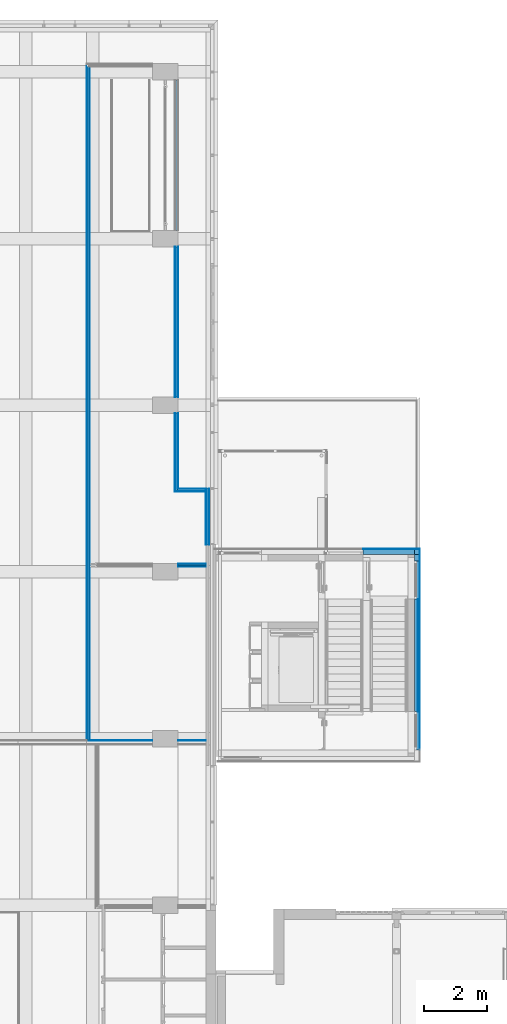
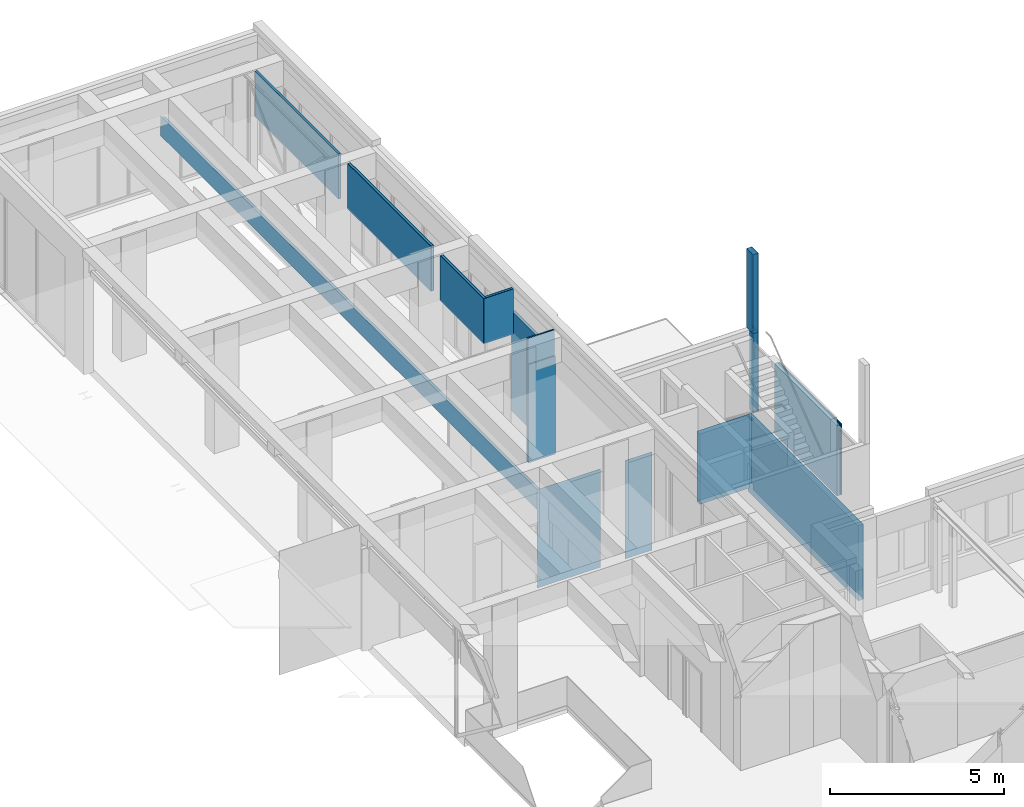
# One storey, part 89 of 117: 36 building element parts, 13 elements without a shape of their own.
"""IFC2X3 building model written with IfcOpenShell, lengths in millimetres."""

from ifc_helpers import new_model, entity, si_unit, converted_unit, derived_unit, money_unit, direction, frame, origin_with_axes, place, context, subcontext, project, spatial, faceted_brep, material, type_object, element, aggregate, save


model = new_model("IFC2X3")

# Units and contexts
model_context = context("Model", 3, precision=0.01, world=origin_with_axes(), true_north=direction((0.0, 1.0)))
body_context = subcontext(model_context, "Body", "Model", "MODEL_VIEW")
ifc_project = project(units=[si_unit("LENGTHUNIT", "METRE", prefix="MILLI"), si_unit("AREAUNIT", "SQUARE_METRE"), si_unit("VOLUMEUNIT", "CUBIC_METRE"), converted_unit("PLANEANGLEUNIT", "DEGREE", entity("IfcPlaneAngleMeasure", 0.0174532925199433), si_unit("PLANEANGLEUNIT", "RADIAN"), dimensions=[0, 0, 0, 0, 0, 0, 0]), money_unit("EUR"), converted_unit("TIMEUNIT", "Year", entity("IfcTimeMeasure", 31557600.0), si_unit("TIMEUNIT", "SECOND"), dimensions=[0, 0, 1, 0, 0, 0, 0]), si_unit("MASSUNIT", "GRAM", prefix="KILO"), si_unit("THERMODYNAMICTEMPERATUREUNIT", "DEGREE_CELSIUS"), si_unit("LUMINOUSINTENSITYUNIT", "LUMEN"), si_unit("ENERGYUNIT", "JOULE", prefix="MEGA"), derived_unit("THERMALCONDUCTANCEUNIT", [(si_unit("POWERUNIT", "WATT"), 1), (si_unit("LENGTHUNIT", "METRE"), -1), (si_unit("THERMODYNAMICTEMPERATUREUNIT", "KELVIN"), -1)]), derived_unit("SPECIFICHEATCAPACITYUNIT", [(si_unit("ENERGYUNIT", "JOULE"), 1), (si_unit("MASSUNIT", "GRAM", prefix="KILO"), -1), (si_unit("THERMODYNAMICTEMPERATUREUNIT", "KELVIN"), -1)]), derived_unit("MASSDENSITYUNIT", [(si_unit("MASSUNIT", "GRAM", prefix="KILO"), 1), (si_unit("VOLUMEUNIT", "CUBIC_METRE"), -1)])], contexts=[model_context])

# Site, building, storey
site_placement = place(None, origin_with_axes())
site = spatial("IfcSite", under=ifc_project, at=site_placement, Name="Site", CompositionType="ELEMENT")
building_placement = place(site_placement, origin_with_axes())
building = spatial("IfcBuilding", under=site, at=building_placement, Name="Naam gebouw", CompositionType="ELEMENT")
storey_placement = place(building_placement, frame((0.0, 0.0, 4150.0), z_axis=(0.0, 0.0, 1.0), x_axis=(1.0, 0.0, 0.0)))
storey = spatial("IfcBuildingStorey", under=building, at=storey_placement, Name="1e verdieping N", CompositionType="ELEMENT", Elevation=4150.0)

# Wall, building element parts
wall_type_1 = type_object("IfcWallType", Name="Basic Wall:41_WA_stucwerk op iso 170mm", PredefinedType="STANDARD")
wall_1_placement = place(storey_placement, frame((36666.50000001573, 39265.41242632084, 1769.999999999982), z_axis=(0.0, 0.0, 1.0), x_axis=(0.0, -1.0, 0.0)))
wall_1 = element("IfcWall", 1, at=wall_1_placement, inside=storey, type_object=wall_type_1, Name="Basic Wall:41_WA_stucwerk op iso 170mm")
ifc_material_1 = material(Name="Verflaag ral 7044  Zijdengrijs Isostuc")
building_element_part_1_placement = place(wall_1_placement, origin_with_axes())
building_element_part_1 = element("IfcBuildingElementPart", 2, at=building_element_part_1_placement, material=ifc_material_1, Name="Verflaag ral 7044  Zijdengrijs Isostuc", context=body_context, shape_type="Brep", body=[
    faceted_brep([(299.5000000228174, 85.50000001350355, 0.0), (-85.50001575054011, 85.50000001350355, 0.0), (-85.50001575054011, 85.50000001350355, 2770.000000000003), (299.5000000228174, 85.50000001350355, 2770.000000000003), (299.5000000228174, 84.50000001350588, 0.0), (-85.50001575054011, 84.50000001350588, 0.0), (-85.50001575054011, 84.50000001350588, 2770.000000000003), (299.5000000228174, 84.50000001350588, 2770.000000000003)], [[[0, 1, 2, 3]], [[4, 5, 1, 0]], [[5, 6, 2, 1]], [[3, 2, 6, 7]], [[7, 4, 0, 3]], [[7, 6, 5, 4]]]),
])
ifc_material_2 = material(Name="stucwerk - gevel gebouw V RAL 7044")
building_element_part_2_placement = place(wall_1_placement, origin_with_axes())
building_element_part_2 = element("IfcBuildingElementPart", 3, at=building_element_part_2_placement, material=ifc_material_2, Name="stucwerk - gevel gebouw V RAL 7044", context=body_context, shape_type="Brep", body=[
    faceted_brep([(299.5000000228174, 84.50000001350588, 0.0), (-84.49999995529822, 84.50000001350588, 0.0), (-84.49999995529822, 84.50000001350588, 2770.000000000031), (299.5000000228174, 84.50000001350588, 2770.000000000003), (299.5000000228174, 74.50000001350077, 0.0), (-84.49999995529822, 74.50000001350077, 0.0), (-84.49999995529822, 74.50000001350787, 2770.000000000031), (299.5000000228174, 74.50000001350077, 2770.000000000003)], [[[0, 1, 2, 3]], [[4, 5, 1, 0]], [[5, 6, 2, 1]], [[3, 2, 6, 7]], [[3, 7, 4, 0]], [[7, 6, 5, 4]]]),
])
ifc_material_3 = material(Name="isolatie_080_1-100")
building_element_part_3_placement = place(wall_1_placement, origin_with_axes())
building_element_part_3 = element("IfcBuildingElementPart", 4, at=building_element_part_3_placement, material=ifc_material_3, Name="isolatie_080_1-100", context=body_context, shape_type="Brep", body=[
    faceted_brep([(299.5000000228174, 74.50000001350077, 0.0), (-74.49999995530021, 74.50000001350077, 0.0), (-74.49999995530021, 74.50000001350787, 2770.000000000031), (299.5000000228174, 74.50000001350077, 2770.000000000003), (299.5000000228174, -85.49999998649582, 0.0), (-74.49999995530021, -85.49999998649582, 0.0), (-74.49999995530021, -85.49999998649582, 2770.000000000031), (299.5000000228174, -85.49999998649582, 2770.000000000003)], [[[0, 1, 2, 3]], [[4, 5, 1, 0]], [[5, 6, 2, 1]], [[3, 2, 6, 7]], [[3, 7, 4, 0]], [[7, 6, 5, 4]]]),
])
aggregate(wall_1, [building_element_part_1, building_element_part_2, building_element_part_3])

wall_2_placement = place(storey_placement, frame((34933.00000001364, 39265.41242632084, -3770.00000000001), z_axis=(0.0, 0.0, 1.0), x_axis=(1.0, 0.0, 0.0)))
wall_2 = element("IfcWall", 5, at=wall_2_placement, inside=storey, type_object=wall_type_1, Name="Basic Wall:41_WA_stucwerk op iso 170mm")
building_element_part_4_placement = place(wall_2_placement, origin_with_axes())
building_element_part_4 = element("IfcBuildingElementPart", 6, at=building_element_part_4_placement, material=ifc_material_3, Name="isolatie_080_1-100", context=body_context, shape_type="Brep", body=[
    faceted_brep([(1647.000000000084, -85.49999998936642, 0.0), (2.877698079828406e-09, -85.50000004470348, 0.0), (-2.501110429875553e-09, 74.4999999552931, 0.0), (1646.999999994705, 74.50000001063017, 0.0), (1647.000000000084, -85.49999998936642, 2470.000000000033), (2.877698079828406e-09, -85.50000004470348, 2470.000000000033), (-2.501110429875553e-09, 74.49999995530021, 2470.000000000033), (1646.999999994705, 74.50000001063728, 2470.000000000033)], [[[0, 1, 2, 3]], [[4, 5, 1, 0]], [[2, 1, 5, 6]], [[3, 2, 6, 7]], [[3, 7, 4, 0]], [[7, 6, 5, 4]]]),
])
building_element_part_5_placement = place(wall_2_placement, origin_with_axes())
building_element_part_5 = element("IfcBuildingElementPart", 7, at=building_element_part_5_placement, material=ifc_material_2, Name="stucwerk - gevel gebouw V RAL 7044", context=body_context, shape_type="Brep", body=[
    faceted_brep([(1806.999999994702, 74.50000001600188, 0.0), (-2.501110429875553e-09, 74.4999999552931, 0.0), (-2.8350655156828e-09, 84.49999995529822, 0.0), (1806.999999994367, 84.500000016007, 0.0), (1806.999999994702, 74.50000001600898, 2470.000000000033), (-2.501110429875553e-09, 74.49999995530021, 2470.000000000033), (-2.8350655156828e-09, 84.49999995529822, 2470.000000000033), (1806.999999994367, 84.500000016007, 2470.000000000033)], [[[0, 1, 2, 3]], [[4, 5, 1, 0]], [[2, 1, 5, 6]], [[3, 2, 6, 7]], [[3, 7, 4, 0]], [[7, 6, 5, 4]]]),
])
building_element_part_6_placement = place(wall_2_placement, origin_with_axes())
building_element_part_6 = element("IfcBuildingElementPart", 8, at=building_element_part_6_placement, material=ifc_material_1, Name="Verflaag ral 7044  Zijdengrijs Isostuc", context=body_context, shape_type="Brep", body=[
    faceted_brep([(1816.999999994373, 84.50000001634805, 0.0), (-2.8350655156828e-09, 84.49999995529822, 0.0), (-2.870592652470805e-09, 85.49999995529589, 0.0), (1816.999999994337, 85.50000001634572, 0.0), (1816.999999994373, 84.50000001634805, 2470.000000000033), (-2.8350655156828e-09, 84.49999995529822, 2470.000000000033), (-2.870592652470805e-09, 85.49999995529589, 2470.000000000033), (1816.999999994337, 85.50000001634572, 2470.000000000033)], [[[0, 1, 2, 3]], [[4, 5, 1, 0]], [[2, 1, 5, 6]], [[3, 2, 6, 7]], [[3, 7, 4, 0]], [[7, 6, 5, 4]]]),
])
aggregate(wall_2, [building_element_part_4, building_element_part_5, building_element_part_6])

# Wall, building element part
wall_type_2 = type_object("IfcWallType", Name="Metalstud iso 150 150", PredefinedType="NOTDEFINED")
wall_3_placement = place(storey_placement, frame((29906.0, 33235.9124251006, -99.99999999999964), z_axis=(0.0, 0.0, 1.0), x_axis=(-1.0, 0.0, 0.0)))
wall_3 = element("IfcWall", 9, at=wall_3_placement, inside=storey, type_object=wall_type_2, Name="_Wand-x")
ifc_material_4 = material(Name="Gipsplaat")
building_element_part_7_placement = place(wall_3_placement, origin_with_axes())
building_element_part_7 = element("IfcBuildingElementPart", 10, at=building_element_part_7_placement, material=ifc_material_4, Name="Gipsplaat", context=body_context, shape_type="Brep", body=[
    faceted_brep([(0.0, 0.0, 99.99999999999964), (890.0000000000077, 0.0, 99.99999999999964), (890.0000000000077, 0.0, 3549.999999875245), (0.0, 0.0, 3549.999999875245), (0.0, 12.50000000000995, 99.99999999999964), (890.0000000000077, 12.50000000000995, 99.99999999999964), (890.0000000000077, 12.50000000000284, 3549.999999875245), (0.0, 12.50000000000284, 3549.999999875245)], [[[0, 1, 2, 3]], [[4, 5, 1, 0]], [[5, 6, 2, 1]], [[3, 2, 6, 7]], [[4, 0, 3, 7]], [[7, 6, 5, 4]]]),
    faceted_brep([(1710.000000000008, 12.50000000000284, 3549.999999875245), (1710.000000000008, 0.0, 3549.999999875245), (3813.359287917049, 0.0, 3549.999999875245), (3813.359287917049, 12.50000000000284, 3549.999999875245), (1710.000000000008, 0.0, 99.99999999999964), (1710.000000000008, 12.50000000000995, 99.99999999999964), (3813.359287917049, 0.0, 99.99999999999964), (3813.359287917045, 0.0, 199.9999999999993), (3795.359287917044, 0.0, 199.9999999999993), (3795.359287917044, 0.0, 1110.0), (3813.359287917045, 0.0, 1110.0), (3813.359287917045, 12.50000000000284, 1110.0), (3795.359287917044, 12.50000000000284, 1110.0), (3795.359287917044, 12.50000000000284, 199.9999999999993), (3813.359287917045, 12.50000000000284, 199.9999999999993), (3813.359287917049, 12.50000000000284, 99.99999999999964)], [[[0, 1, 2, 3]], [[4, 1, 0, 5]], [[1, 4, 6, 7, 8, 9, 10, 2]], [[11, 3, 2, 10]], [[5, 0, 3, 11, 12, 13, 14, 15]], [[4, 5, 15, 6]], [[14, 7, 6, 15]], [[7, 14, 13, 8]], [[8, 13, 12, 9]], [[9, 12, 11, 10]]]),
])
aggregate(wall_3, [building_element_part_7])

# Wall, building element parts
wall_type_3 = type_object("IfcWallType", Name="Basic Wall:41_WA_houten delen vert trappenhuis", PredefinedType="STANDARD")
wall_4_placement = place(storey_placement, frame((36665.0000000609, 34145.91242629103, -1000.0), z_axis=(0.0, 0.0, 1.0), x_axis=(0.0, 1.0, 0.0)))
wall_4 = element("IfcWall", 11, at=wall_4_placement, inside=storey, type_object=wall_type_3, Name="Basic Wall:41_WA_houten delen vert trappenhuis")
ifc_material_5 = material(Name="isolatie")
building_element_part_8_placement = place(wall_4_placement, origin_with_axes())
building_element_part_8 = element("IfcBuildingElementPart", 12, at=building_element_part_8_placement, material=ifc_material_5, Name="isolatie", context=body_context, shape_type="Brep", body=[
    faceted_brep([(3599.999999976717, 83.9999999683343, 0.0), (3599.999999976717, -16.00000003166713, 0.0), (0.0, -16.00000003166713, 0.0), (0.0, 83.9999999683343, 0.0), (3599.999999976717, 83.9999999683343, 2470.0), (3599.999999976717, -16.00000003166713, 2470.0), (0.0, -16.00000003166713, 2470.0), (0.0, 83.9999999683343, 2470.0)], [[[0, 1, 2, 3]], [[0, 4, 5, 1]], [[1, 5, 6, 2]], [[3, 2, 6, 7]], [[4, 0, 3, 7]], [[5, 4, 7, 6]]]),
])
ifc_material_6 = material(Name="luchtspouw")
building_element_part_9_placement = place(wall_4_placement, origin_with_axes())
building_element_part_9 = element("IfcBuildingElementPart", 13, at=building_element_part_9_placement, material=ifc_material_6, Name="luchtspouw", context=body_context, shape_type="Brep", body=[
    faceted_brep([(3599.999999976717, -16.00000003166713, 0.0), (3599.999999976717, -44.00000003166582, 0.0), (0.0, -44.00000003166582, 0.0), (0.0, -16.00000003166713, 0.0), (3599.999999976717, -16.00000003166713, 2470.0), (3599.999999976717, -44.00000003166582, 2470.0), (0.0, -44.00000003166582, 2470.0), (0.0, -16.00000003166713, 2470.0)], [[[0, 1, 2, 3]], [[0, 4, 5, 1]], [[1, 5, 6, 2]], [[3, 2, 6, 7]], [[4, 0, 3, 7]], [[5, 4, 7, 6]]]),
])
building_element_part_10_placement = place(wall_4_placement, origin_with_axes())
building_element_part_10 = element("IfcBuildingElementPart", 14, at=building_element_part_10_placement, material=ifc_material_6, Name="luchtspouw", context=body_context, shape_type="Brep", body=[
    faceted_brep([(3599.999999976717, -44.00000003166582, 0.0), (3599.999999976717, -66.00000003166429, 0.0), (0.0, -66.00000003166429, 0.0), (0.0, -44.00000003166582, 0.0), (3599.999999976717, -44.00000003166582, 2470.0), (3599.999999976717, -66.00000003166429, 2470.0), (0.0, -66.00000003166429, 2470.0), (0.0, -44.00000003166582, 2470.0)], [[[0, 1, 2, 3]], [[0, 4, 5, 1]], [[1, 5, 6, 2]], [[3, 2, 6, 7]], [[4, 0, 3, 7]], [[5, 4, 7, 6]]]),
])
ifc_material_7 = material(Name="Houten delen vert")
building_element_part_11_placement = place(wall_4_placement, origin_with_axes())
building_element_part_11 = element("IfcBuildingElementPart", 15, at=building_element_part_11_placement, material=ifc_material_7, Name="Houten delen vert", context=body_context, shape_type="Brep", body=[
    faceted_brep([(3599.999999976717, -66.00000003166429, 0.0), (3599.999999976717, -84.00000003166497, 0.0), (0.0, -84.00000003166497, 0.0), (0.0, -66.00000003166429, 0.0), (3599.999999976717, -66.00000003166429, 2470.0), (3599.999999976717, -84.00000003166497, 2470.0), (0.0, -84.00000003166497, 2470.0), (0.0, -66.00000003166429, 2470.0)], [[[0, 1, 2, 3]], [[0, 4, 5, 1]], [[1, 5, 6, 2]], [[3, 2, 6, 7]], [[4, 0, 3, 7]], [[5, 4, 7, 6]]]),
])
aggregate(wall_4, [building_element_part_8, building_element_part_9, building_element_part_10, building_element_part_11])

wall_5_placement = place(storey_placement, frame((36666.50000001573, 39265.41242632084, -1000.0), z_axis=(0.0, 0.0, 1.0), x_axis=(0.0, -1.0, 0.0)))
wall_5 = element("IfcWall", 16, at=wall_5_placement, inside=storey, type_object=wall_type_1, Name="Basic Wall:41_WA_stucwerk op iso 170mm")
building_element_part_12_placement = place(wall_5_placement, origin_with_axes())
building_element_part_12 = element("IfcBuildingElementPart", 17, at=building_element_part_12_placement, material=ifc_material_1, Name="Verflaag ral 7044  Zijdengrijs Isostuc", context=body_context, shape_type="Brep", body=[
    faceted_brep([(299.5000000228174, 85.50000001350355, 0.0), (-84.49999995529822, 85.50000001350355, 0.0), (-84.49999995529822, 85.50000001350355, 2770.000000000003), (299.5000000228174, 85.50000001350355, 2770.000000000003), (299.5000000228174, 84.50000001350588, 0.0), (-84.49999995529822, 84.50000001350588, 0.0), (-84.49999995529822, 84.50000001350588, 2770.000000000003), (299.5000000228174, 84.50000001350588, 2770.000000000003)], [[[0, 1, 2, 3]], [[4, 5, 1, 0]], [[5, 6, 2, 1]], [[3, 2, 6, 7]], [[3, 7, 4, 0]], [[7, 6, 5, 4]]]),
])
building_element_part_13_placement = place(wall_5_placement, origin_with_axes())
building_element_part_13 = element("IfcBuildingElementPart", 18, at=building_element_part_13_placement, material=ifc_material_2, Name="stucwerk - gevel gebouw V RAL 7044", context=body_context, shape_type="Brep", body=[
    faceted_brep([(299.5000000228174, 84.50000001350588, 0.0), (-74.49999995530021, 84.50000001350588, 0.0), (-74.49999995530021, 84.50000001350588, 2770.000000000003), (299.5000000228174, 84.50000001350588, 2770.000000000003), (299.5000000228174, 74.50000001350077, 0.0), (-74.49999995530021, 74.50000001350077, 0.0), (-74.49999995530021, 74.50000001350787, 2770.000000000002), (299.5000000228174, 74.50000001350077, 2770.000000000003)], [[[0, 1, 2, 3]], [[4, 5, 1, 0]], [[5, 6, 2, 1]], [[3, 2, 6, 7]], [[3, 7, 4, 0]], [[7, 6, 5, 4]]]),
])
building_element_part_14_placement = place(wall_5_placement, origin_with_axes())
building_element_part_14 = element("IfcBuildingElementPart", 19, at=building_element_part_14_placement, material=ifc_material_3, Name="isolatie_080_1-100", context=body_context, shape_type="Brep", body=[
    faceted_brep([(299.5000000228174, 74.50000001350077, 0.0), (85.50000004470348, 74.50000001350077, 0.0), (85.50000004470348, 74.50000001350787, 2770.000000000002), (299.5000000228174, 74.50000001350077, 2770.000000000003), (299.5000000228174, -85.49999998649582, 0.0), (85.50000004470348, -85.49999998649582, 0.0), (85.50000004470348, -85.49999998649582, 2769.999999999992), (299.5000000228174, -85.49999998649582, 2770.000000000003)], [[[0, 1, 2, 3]], [[4, 5, 1, 0]], [[5, 6, 2, 1]], [[3, 2, 6, 7]], [[3, 7, 4, 0]], [[7, 6, 5, 4]]]),
])
aggregate(wall_5, [building_element_part_12, building_element_part_13, building_element_part_14])

wall_type_4 = type_object("IfcWallType", Name="Metalstud iso 100 100", PredefinedType="NOTDEFINED")
wall_6_placement = place(storey_placement, frame((30006.0, 41280.91242510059, 0.0), z_axis=(0.0, 0.0, 1.0), x_axis=(0.0, -1.0, 0.0)))
wall_6 = element("IfcWall", 20, at=wall_6_placement, inside=storey, type_object=wall_type_4, Name="_Wand-x")
building_element_part_15_placement = place(wall_6_placement, origin_with_axes())
building_element_part_15 = element("IfcBuildingElementPart", 21, at=building_element_part_15_placement, material=ifc_material_4, Name="Gipsplaat", context=body_context, shape_type="Brep", body=[
    faceted_brep([(1794.999999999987, 0.0, 0.0), (1794.999999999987, -12.49999999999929, 0.0), (0.0, -12.49999999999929, 0.0), (0.0, 0.0, 0.0), (1794.999999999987, 0.0, 3499.999999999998), (1794.999999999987, -12.49999999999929, 3499.999999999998), (0.0, -12.49999999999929, 3499.999999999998), (0.0, 0.0, 3499.999999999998)], [[[0, 1, 2, 3]], [[0, 4, 5, 1]], [[1, 5, 6, 2]], [[3, 2, 6, 7]], [[4, 0, 3, 7]], [[5, 4, 7, 6]]]),
])
building_element_part_16_placement = place(wall_6_placement, origin_with_axes())
building_element_part_16 = element("IfcBuildingElementPart", 22, at=building_element_part_16_placement, material=ifc_material_4, Name="Gipsplaat", context=body_context, shape_type="Brep", body=[
    faceted_brep([(1794.999999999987, -87.49999999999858, 0.0), (1794.999999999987, -100.0000000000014, 0.0), (0.0, -100.0000000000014, 0.0), (0.0, -87.49999999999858, 0.0), (1794.999999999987, -87.49999999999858, 3499.999999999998), (1794.999999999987, -100.0000000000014, 3499.999999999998), (0.0, -100.0000000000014, 3499.999999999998), (0.0, -87.49999999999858, 3499.999999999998)], [[[0, 1, 2, 3]], [[0, 4, 5, 1]], [[1, 5, 6, 2]], [[3, 2, 6, 7]], [[4, 0, 3, 7]], [[5, 4, 7, 6]]]),
])
ifc_material_8 = material(Name="Isolatie - Steenwol LSW")
building_element_part_17_placement = place(wall_6_placement, origin_with_axes())
building_element_part_17 = element("IfcBuildingElementPart", 23, at=building_element_part_17_placement, material=ifc_material_8, Name="Isolatie - Steenwol LSW", context=body_context, shape_type="Brep", body=[
    faceted_brep([(1794.999999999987, -12.49999999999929, 0.0), (1794.999999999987, -87.49999999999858, 0.0), (0.0, -87.49999999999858, 0.0), (0.0, -12.49999999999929, 0.0), (1794.999999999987, -12.49999999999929, 3499.999999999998), (1794.999999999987, -87.49999999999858, 3499.999999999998), (0.0, -87.49999999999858, 3499.999999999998), (0.0, -12.49999999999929, 3499.999999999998)], [[[0, 1, 2, 3]], [[0, 4, 5, 1]], [[1, 5, 6, 2]], [[3, 2, 6, 7]], [[4, 0, 3, 7]], [[5, 4, 7, 6]]]),
])
aggregate(wall_6, [building_element_part_15, building_element_part_16, building_element_part_17])

wall_7_placement = place(storey_placement, frame((29015.99999999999, 41280.91242510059, 2760.0), z_axis=(0.0, 0.0, 1.0), x_axis=(0.0, 1.0, 0.0)))
wall_7 = element("IfcWall", 24, at=wall_7_placement, inside=storey, type_object=wall_type_4, Name="_Wand-x")
building_element_part_18_placement = place(wall_7_placement, origin_with_axes())
building_element_part_18 = element("IfcBuildingElementPart", 25, at=building_element_part_18_placement, material=ifc_material_4, Name="Gipsplaat", context=body_context, shape_type="Brep", body=[
    faceted_brep([(-100.0000000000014, 87.49999999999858, 1580.0), (2402.500000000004, 87.49999999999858, 1580.0), (2402.500000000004, 100.0000000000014, 1580.0), (-100.0000000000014, 100.0000000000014, 1580.0), (-100.0000000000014, 87.49999999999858, 0.0), (2402.500000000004, 87.49999999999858, 0.0), (2402.500000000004, 100.0000000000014, 0.0), (-100.0000000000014, 100.0000000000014, 0.0)], [[[0, 1, 2, 3]], [[4, 5, 1, 0]], [[2, 1, 5, 6]], [[3, 2, 6, 7]], [[4, 0, 3, 7]], [[7, 6, 5, 4]]]),
])
building_element_part_19_placement = place(wall_7_placement, origin_with_axes())
building_element_part_19 = element("IfcBuildingElementPart", 26, at=building_element_part_19_placement, material=ifc_material_8, Name="Isolatie - Steenwol LSW", context=body_context, shape_type="Brep", body=[
    faceted_brep([(-87.49999999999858, 12.49999999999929, 1580.0), (2402.500000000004, 12.49999999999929, 1580.0), (2402.500000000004, 87.49999999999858, 1580.0), (-87.49999999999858, 87.49999999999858, 1580.0), (-87.49999999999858, 12.49999999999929, 0.0), (2402.500000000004, 12.49999999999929, 0.0), (2402.500000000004, 87.49999999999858, 0.0), (-87.49999999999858, 87.49999999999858, 0.0)], [[[0, 1, 2, 3]], [[4, 5, 1, 0]], [[2, 1, 5, 6]], [[3, 2, 6, 7]], [[4, 0, 3, 7]], [[7, 6, 5, 4]]]),
])
building_element_part_20_placement = place(wall_7_placement, origin_with_axes())
building_element_part_20 = element("IfcBuildingElementPart", 27, at=building_element_part_20_placement, material=ifc_material_4, Name="Gipsplaat", context=body_context, shape_type="Brep", body=[
    faceted_brep([(-12.50000000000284, 0.0, 1580.0), (2402.500000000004, 0.0, 1580.0), (2402.500000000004, 12.49999999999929, 1580.0), (-12.50000000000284, 12.49999999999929, 1580.0), (-12.50000000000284, 0.0, 0.0), (2402.500000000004, 0.0, 0.0), (2402.500000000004, 12.49999999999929, 0.0), (-12.50000000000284, 12.49999999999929, 0.0)], [[[0, 1, 2, 3]], [[4, 5, 1, 0]], [[2, 1, 5, 6]], [[3, 2, 6, 7]], [[4, 0, 3, 7]], [[7, 6, 5, 4]]]),
])
aggregate(wall_7, [building_element_part_18, building_element_part_19, building_element_part_20])

wall_8_placement = place(storey_placement, frame((36665.50000005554, 39265.41242626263, -3939.999999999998), z_axis=(0.0, 0.0, 1.0), x_axis=(0.0, -1.0, 0.0)))
wall_8 = element("IfcWall", 28, at=wall_8_placement, inside=storey, type_object=wall_type_1, Name="Basic Wall:41_WA_stucwerk op iso 170mm")
building_element_part_21_placement = place(wall_8_placement, origin_with_axes())
building_element_part_21 = element("IfcBuildingElementPart", 29, at=building_element_part_21_placement, material=ifc_material_1, Name="Verflaag ral 7044  Zijdengrijs Isostuc", context=body_context, shape_type="Brep", body=[
    faceted_brep([(-85.50000567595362, 85.49999995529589, 169.9999999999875), (-85.50000567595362, 85.49999995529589, 2640.00000000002), (6339.499999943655, 85.49999995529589, 2640.000000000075), (6339.499999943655, 85.49999995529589, 0.0), (0.0, 85.49999995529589, 0.0), (0.0, 85.49999995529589, 170.0000003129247), (-85.50000567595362, 84.49999995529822, 2640.00000000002), (-85.50000567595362, 84.49999995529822, 169.9999999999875), (6339.499999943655, 84.49999995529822, 2640.000000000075), (6339.499999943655, 84.49999995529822, 0.0), (0.0, 84.49999995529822, 0.0), (0.0, 84.49999995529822, 170.0000003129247)], [[[0, 1, 2, 3, 4, 5]], [[6, 1, 0, 7]], [[1, 6, 8, 2]], [[9, 3, 2, 8]], [[10, 4, 3, 9]], [[5, 4, 10, 11]], [[7, 0, 5, 11]], [[6, 7, 11, 10, 9, 8]]]),
])
building_element_part_22_placement = place(wall_8_placement, origin_with_axes())
building_element_part_22 = element("IfcBuildingElementPart", 30, at=building_element_part_22_placement, material=ifc_material_2, Name="stucwerk - gevel gebouw V RAL 7044", context=body_context, shape_type="Brep", body=[
    faceted_brep([(-84.50000001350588, 84.49999995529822, 169.9999999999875), (-84.50000001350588, 84.49999995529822, 2640.00000000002), (6339.499999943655, 84.49999995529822, 2640.000000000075), (6339.499999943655, 84.49999995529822, 0.0), (0.0, 84.49999995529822, 0.0), (0.0, 84.49999995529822, 170.0000003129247), (-84.50000001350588, 74.49999995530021, 2640.00000000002), (-84.50000001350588, 74.4999999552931, 169.9999999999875), (6339.499999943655, 74.4999999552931, 2640.000000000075), (6339.499999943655, 74.4999999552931, 0.0), (0.0, 74.4999999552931, 0.0), (0.0, 74.4999999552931, 170.0000003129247)], [[[0, 1, 2, 3, 4, 5]], [[6, 1, 0, 7]], [[1, 6, 8, 2]], [[8, 9, 3, 2]], [[9, 10, 4, 3]], [[11, 5, 4, 10]], [[7, 0, 5, 11]], [[6, 7, 11, 10, 9, 8]]]),
])
building_element_part_23_placement = place(wall_8_placement, origin_with_axes())
building_element_part_23 = element("IfcBuildingElementPart", 31, at=building_element_part_23_placement, material=ifc_material_3, Name="isolatie_080_1-100", context=body_context, shape_type="Brep", body=[
    faceted_brep([(-74.50000001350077, 74.4999999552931, 169.9999999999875), (-74.50000001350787, 74.49999995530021, 2640.00000000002), (6339.499999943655, 74.4999999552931, 2640.000000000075), (6339.499999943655, 74.4999999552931, 0.0), (0.0, 74.4999999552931, 0.0), (0.0, 74.4999999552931, 170.0000003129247), (-74.50000001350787, -85.50000004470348, 2640.00000000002), (-74.50000001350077, -85.50000004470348, 169.9999999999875), (6339.499999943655, -85.50000004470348, 2640.000000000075), (6339.499999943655, -85.50000004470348, 0.0), (0.0, -85.50000004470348, 0.0), (0.0, -85.50000004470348, 170.0000003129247)], [[[0, 1, 2, 3, 4, 5]], [[6, 1, 0, 7]], [[1, 6, 8, 2]], [[8, 9, 3, 2]], [[9, 10, 4, 3]], [[11, 5, 4, 10]], [[7, 0, 5, 11]], [[6, 7, 11, 10, 9, 8]]]),
])
aggregate(wall_8, [building_element_part_21, building_element_part_22, building_element_part_23])

wall_9_placement = place(storey_placement, frame((29015.99999999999, 44208.41242510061, 2760.0), z_axis=(0.0, 0.0, 1.0), x_axis=(0.0, 1.0, 0.0)))
wall_9 = element("IfcWall", 32, at=wall_9_placement, inside=storey, type_object=wall_type_4, Name="_Wand-x")
building_element_part_24_placement = place(wall_9_placement, origin_with_axes())
building_element_part_24 = element("IfcBuildingElementPart", 33, at=building_element_part_24_placement, material=ifc_material_4, Name="Gipsplaat", context=body_context, shape_type="Brep", body=[
    faceted_brep([(0.0, 87.49999999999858, 1580.0), (4804.999999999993, 87.49999999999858, 1580.0), (4804.999999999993, 100.0000000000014, 1580.0), (0.0, 100.0000000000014, 1580.0), (0.0, 87.49999999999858, 0.0), (4804.999999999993, 87.49999999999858, 0.0), (4804.999999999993, 100.0000000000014, 0.0), (0.0, 100.0000000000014, 0.0)], [[[0, 1, 2, 3]], [[4, 5, 1, 0]], [[2, 1, 5, 6]], [[3, 2, 6, 7]], [[4, 0, 3, 7]], [[7, 6, 5, 4]]]),
])
building_element_part_25_placement = place(wall_9_placement, origin_with_axes())
building_element_part_25 = element("IfcBuildingElementPart", 34, at=building_element_part_25_placement, material=ifc_material_8, Name="Isolatie - Steenwol LSW", context=body_context, shape_type="Brep", body=[
    faceted_brep([(0.0, 12.49999999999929, 1580.0), (4804.999999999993, 12.49999999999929, 1580.0), (4804.999999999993, 87.49999999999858, 1580.0), (0.0, 87.49999999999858, 1580.0), (0.0, 12.49999999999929, 0.0), (4804.999999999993, 12.49999999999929, 0.0), (4804.999999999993, 87.49999999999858, 0.0), (0.0, 87.49999999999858, 0.0)], [[[0, 1, 2, 3]], [[4, 5, 1, 0]], [[2, 1, 5, 6]], [[3, 2, 6, 7]], [[4, 0, 3, 7]], [[7, 6, 5, 4]]]),
])
building_element_part_26_placement = place(wall_9_placement, origin_with_axes())
building_element_part_26 = element("IfcBuildingElementPart", 35, at=building_element_part_26_placement, material=ifc_material_4, Name="Gipsplaat", context=body_context, shape_type="Brep", body=[
    faceted_brep([(0.0, 0.0, 1580.0), (4804.999999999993, 0.0, 1580.0), (4804.999999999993, 12.49999999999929, 1580.0), (0.0, 12.49999999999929, 1580.0), (0.0, 0.0, 0.0), (4804.999999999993, 0.0, 0.0), (4804.999999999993, 12.49999999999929, 0.0), (0.0, 12.49999999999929, 0.0)], [[[0, 1, 2, 3]], [[4, 5, 1, 0]], [[2, 1, 5, 6]], [[3, 2, 6, 7]], [[4, 0, 3, 7]], [[7, 6, 5, 4]]]),
])
aggregate(wall_9, [building_element_part_24, building_element_part_25, building_element_part_26])

wall_10_placement = place(storey_placement, frame((26091.99996408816, 54868.4124251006, 2760.0), z_axis=(0.0, 0.0, 1.0), x_axis=(0.0, -1.0, 0.0)))
wall_10 = element("IfcWall", 36, at=wall_10_placement, inside=storey, type_object=wall_type_4, Name="_Wand-x")
building_element_part_27_placement = place(wall_10_placement, origin_with_axes())
building_element_part_27 = element("IfcBuildingElementPart", 37, at=building_element_part_27_placement, material=ifc_material_4, Name="Gipsplaat", context=body_context, shape_type="Brep", body=[
    faceted_brep([(21632.5, 99.99999999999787, 690.0000000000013), (100.0000000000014, 100.0000000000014, 690.0000000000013), (100.0000000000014, 87.49999999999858, 690.0000000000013), (21632.5, 87.49999999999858, 690.0000000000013), (21632.5, 99.99999999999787, 0.0), (100.0000000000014, 100.0000000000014, 0.0), (100.0000000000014, 87.49999999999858, 0.0), (21632.5, 87.49999999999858, 0.0)], [[[0, 1, 2, 3]], [[4, 5, 1, 0]], [[2, 1, 5, 6]], [[3, 2, 6, 7]], [[3, 7, 4, 0]], [[7, 6, 5, 4]]]),
])
building_element_part_28_placement = place(wall_10_placement, origin_with_axes())
building_element_part_28 = element("IfcBuildingElementPart", 38, at=building_element_part_28_placement, material=ifc_material_8, Name="Isolatie - Steenwol LSW", context=body_context, shape_type="Brep", body=[
    faceted_brep([(21632.5, 87.49999999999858, 690.0000000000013), (87.49999999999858, 87.49999999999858, 690.0000000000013), (87.49999999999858, 12.49999999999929, 690.0000000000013), (21632.5, 12.49999999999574, 690.0000000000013), (21632.5, 87.49999999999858, 0.0), (87.49999999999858, 87.49999999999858, 0.0), (87.49999999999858, 12.49999999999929, 0.0), (21632.5, 12.49999999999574, 0.0)], [[[0, 1, 2, 3]], [[4, 5, 1, 0]], [[2, 1, 5, 6]], [[3, 2, 6, 7]], [[3, 7, 4, 0]], [[7, 6, 5, 4]]]),
])
building_element_part_29_placement = place(wall_10_placement, origin_with_axes())
building_element_part_29 = element("IfcBuildingElementPart", 39, at=building_element_part_29_placement, material=ifc_material_4, Name="Gipsplaat", context=body_context, shape_type="Brep", body=[
    faceted_brep([(21632.5, 12.49999999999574, 690.0000000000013), (12.50000000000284, 12.49999999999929, 690.0000000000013), (12.50000000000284, 0.0, 690.0000000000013), (21632.5, 0.0, 690.0000000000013), (21632.5, 12.49999999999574, 0.0), (12.50000000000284, 12.49999999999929, 0.0), (12.50000000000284, 0.0, 0.0), (21632.5, 0.0, 0.0)], [[[0, 1, 2, 3]], [[4, 5, 1, 0]], [[2, 1, 5, 6]], [[3, 2, 6, 7]], [[3, 7, 4, 0]], [[7, 6, 5, 4]]]),
])
aggregate(wall_10, [building_element_part_27, building_element_part_28, building_element_part_29])

wall_11_placement = place(storey_placement, frame((29015.99999999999, 38778.41242510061, 0.0), z_axis=(0.0, 0.0, 1.0), x_axis=(1.0, 0.0, 0.0)))
wall_11 = element("IfcWall", 40, at=wall_11_placement, inside=storey, type_object=wall_type_4, Name="_Wand-x")
building_element_part_30_placement = place(wall_11_placement, origin_with_axes())
building_element_part_30 = element("IfcBuildingElementPart", 41, at=building_element_part_30_placement, material=ifc_material_8, Name="Isolatie - Steenwol LSW", context=body_context, shape_type="Brep", body=[
    faceted_brep([(890.0000000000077, 87.49999999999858, 4340.0), (0.0, 87.49999999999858, 4340.0), (0.0, 37.50000000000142, 4340.0), (890.0000000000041, 37.50000000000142, 4340.0), (0.0, 87.49999999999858, 0.0), (890.0000000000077, 87.49999999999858, 0.0), (0.0, 12.50000000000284, 0.0), (0.0, 12.50000000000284, 3450.0), (0.0, 37.50000000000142, 3450.0), (890.0000000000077, 37.50000000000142, 3450.0), (890.0000000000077, 12.50000000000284, 3450.0), (890.0000000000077, 12.50000000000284, 0.0)], [[[0, 1, 2, 3]], [[4, 1, 0, 5]], [[6, 7, 8, 2, 1, 4]], [[8, 9, 3, 2]], [[0, 3, 9, 10, 11, 5]], [[6, 4, 5, 11]], [[6, 11, 10, 7]], [[8, 7, 10, 9]]]),
])
building_element_part_31_placement = place(wall_11_placement, origin_with_axes())
building_element_part_31 = element("IfcBuildingElementPart", 42, at=building_element_part_31_placement, material=ifc_material_4, Name="Gipsplaat", context=body_context, shape_type="Brep", body=[
    faceted_brep([(0.0, 100.0000000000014, 4340.0), (0.0, 87.49999999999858, 4340.0), (890.0000000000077, 87.49999999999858, 4340.0), (890.0000000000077, 100.0000000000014, 4340.0), (0.0, 100.0000000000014, 0.0), (0.0, 87.49999999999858, 0.0), (890.0000000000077, 87.49999999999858, 0.0), (890.0000000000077, 100.0000000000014, 0.0)], [[[0, 1, 2, 3]], [[0, 4, 5, 1]], [[1, 5, 6, 2]], [[6, 7, 3, 2]], [[4, 0, 3, 7]], [[5, 4, 7, 6]]]),
])
building_element_part_32_placement = place(wall_11_placement, origin_with_axes())
building_element_part_32 = element("IfcBuildingElementPart", 43, at=building_element_part_32_placement, material=ifc_material_4, Name="Gipsplaat", context=body_context, shape_type="Brep", body=[
    faceted_brep([(890.0000000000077, 12.50000000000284, 0.0), (0.0, 12.50000000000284, 0.0), (0.0, 12.50000000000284, 3450.0), (890.0000000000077, 12.50000000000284, 3450.0), (0.0, 0.0, 0.0), (890.0000000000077, 0.0, 0.0), (0.0, 0.0, 3450.0), (890.0000000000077, 0.0, 3450.0)], [[[0, 1, 2, 3]], [[4, 1, 0, 5]], [[1, 4, 6, 2]], [[2, 6, 7, 3]], [[5, 0, 3, 7]], [[4, 5, 7, 6]]]),
])
aggregate(wall_11, [building_element_part_30, building_element_part_31, building_element_part_32])

# Wall, building element part
wall_12_placement = place(storey_placement, frame((29015.99999999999, 49538.4124251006, 2760.0), z_axis=(0.0, 0.0, 1.0), x_axis=(0.0, 1.0, 0.0)))
wall_12 = element("IfcWall", 44, at=wall_12_placement, inside=storey, type_object=wall_type_4, Name="_Wand-x")
building_element_part_33_placement = place(wall_12_placement, origin_with_axes())
building_element_part_33 = element("IfcBuildingElementPart", 45, at=building_element_part_33_placement, material=ifc_material_8, Name="Isolatie - Steenwol LSW", context=body_context, shape_type="Brep", body=[
    faceted_brep([(0.0, 12.49999999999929, 1580.0), (4804.999999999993, 12.49999999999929, 1580.0), (4804.999999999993, 87.49999999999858, 1580.0), (0.0, 87.49999999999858, 1580.0), (0.0, 12.49999999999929, 0.0), (4804.999999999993, 12.49999999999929, 0.0), (4804.999999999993, 87.49999999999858, 0.0), (0.0, 87.49999999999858, 0.0)], [[[0, 1, 2, 3]], [[4, 5, 1, 0]], [[2, 1, 5, 6]], [[3, 2, 6, 7]], [[4, 0, 3, 7]], [[7, 6, 5, 4]]]),
])
aggregate(wall_12, [building_element_part_33])

# Wall, building element parts
wall_13_placement = place(storey_placement, frame((29945.0, 41280.91242510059, 2760.0), z_axis=(0.0, 0.0, 1.0), x_axis=(-1.0, 0.0, 0.0)))
wall_13 = element("IfcWall", 46, at=wall_13_placement, inside=storey, type_object=wall_type_4, Name="_Wand-x")
building_element_part_34_placement = place(wall_13_placement, origin_with_axes())
building_element_part_34 = element("IfcBuildingElementPart", 47, at=building_element_part_34_placement, material=ifc_material_8, Name="Isolatie - Steenwol LSW", context=body_context, shape_type="Brep", body=[
    faceted_brep([(941.500000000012, 12.50000000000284, 1580.0), (941.500000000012, 87.49999999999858, 1580.0), (39.00000000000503, 87.49999999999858, 1580.0), (39.00000000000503, 12.50000000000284, 1580.0), (941.500000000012, 12.50000000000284, 0.0), (941.500000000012, 87.49999999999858, 0.0), (39.00000000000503, 87.49999999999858, 0.0), (39.00000000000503, 12.50000000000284, 0.0)], [[[0, 1, 2, 3]], [[1, 0, 4, 5]], [[1, 5, 6, 2]], [[7, 3, 2, 6]], [[4, 0, 3, 7]], [[5, 4, 7, 6]]]),
])
building_element_part_35_placement = place(wall_13_placement, origin_with_axes())
building_element_part_35 = element("IfcBuildingElementPart", 48, at=building_element_part_35_placement, material=ifc_material_4, Name="Gipsplaat", context=body_context, shape_type="Brep", body=[
    faceted_brep([(929.0000000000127, 0.0, 1580.0), (929.0000000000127, 12.50000000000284, 1580.0), (39.00000000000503, 12.50000000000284, 1580.0), (39.00000000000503, 0.0, 1580.0), (929.0000000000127, 0.0, 0.0), (929.0000000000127, 12.50000000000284, 0.0), (39.00000000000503, 12.50000000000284, 0.0), (39.00000000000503, 0.0, 0.0)], [[[0, 1, 2, 3]], [[1, 0, 4, 5]], [[1, 5, 6, 2]], [[7, 3, 2, 6]], [[4, 0, 3, 7]], [[5, 4, 7, 6]]]),
])
building_element_part_36_placement = place(wall_13_placement, origin_with_axes())
building_element_part_36 = element("IfcBuildingElementPart", 49, at=building_element_part_36_placement, material=ifc_material_4, Name="Gipsplaat", context=body_context, shape_type="Brep", body=[
    faceted_brep([(1016.500000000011, 87.49999999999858, 1580.0), (1016.500000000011, 100.0000000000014, 1580.0), (39.00000000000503, 100.0000000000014, 1580.0), (39.00000000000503, 87.49999999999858, 1580.0), (1016.500000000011, 87.49999999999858, 0.0), (1016.500000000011, 100.0000000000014, 0.0), (39.00000000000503, 100.0000000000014, 0.0), (39.00000000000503, 87.49999999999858, 0.0)], [[[0, 1, 2, 3]], [[1, 0, 4, 5]], [[1, 5, 6, 2]], [[7, 3, 2, 6]], [[4, 0, 3, 7]], [[5, 4, 7, 6]]]),
])
aggregate(wall_13, [building_element_part_34, building_element_part_35, building_element_part_36])

save(model, "model.ifc")
